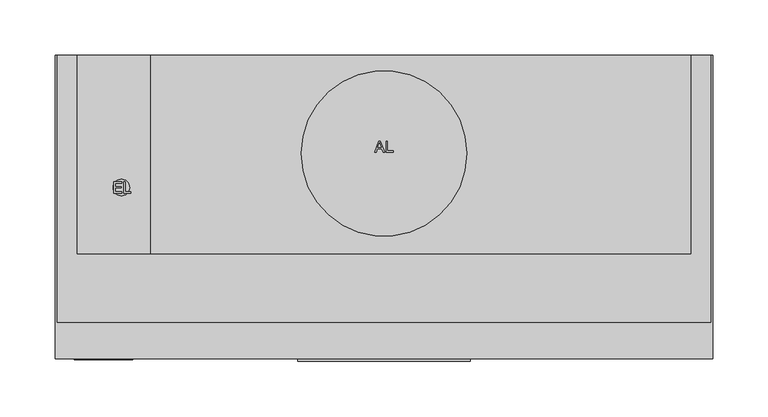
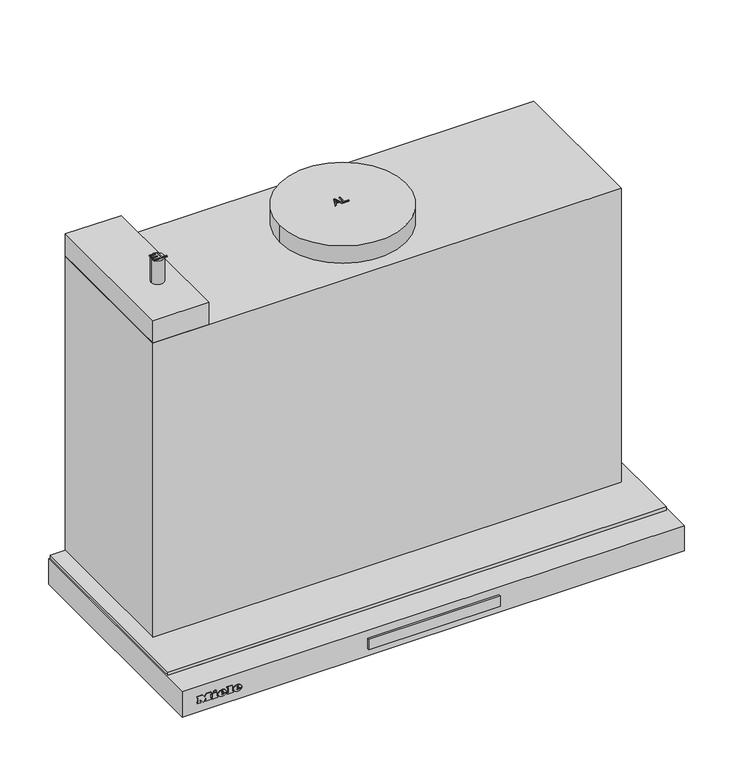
"""IFC4 building model written with IfcOpenShell, lengths in millimetres: proxy geometry, 12535050_CH_DAS4620_MASW : 28S4620M_CH_12535050_DAS4620_MASW."""

import ifcopenshell
import ifcopenshell.guid

model = None  # the IFC model being written
_history = None  # IfcOwnerHistory: only IFC2X3 demands one
_inside = {}  # id of a spatial element -> (the spatial element, [elements in it])
_under = {}  # id of a project, library or spatial element -> (it, [spatial elements below it])
_declared = {}  # id of a project -> (the project, [libraries it declares])
_typed = {}  # id of a type object -> (the type object, [elements of that type])
_made_of = {}  # id of a material, layer set ... -> (it, [elements and type objects made of it])


def new_model(schema):
    """Start an empty IFC model of exactly this schema.

    Asked for "IFC4X3", IfcOpenShell would pick the latest addendum, in which some entities
    have other attributes; the version numbers below select the first issue.
    IFC2X3 requires an IfcOwnerHistory on every rooted entity: one is made here for all.
    """
    global model, _history
    if schema == "IFC4X3":
        model = ifcopenshell.file(schema_version=(4, 3, 0, 0))
    else:
        model = ifcopenshell.file(schema=schema)
    _inside.clear()
    _under.clear()
    _declared.clear()
    _typed.clear()
    _made_of.clear()
    _history = None
    if model.schema == "IFC2X3":
        org = make("IfcOrganization", Name="unknown")
        user = make(
            "IfcPersonAndOrganization",
            ThePerson=make("IfcPerson", FamilyName="unknown"),
            TheOrganization=org,
        )
        app = make(
            "IfcApplication",
            ApplicationDeveloper=org,
            Version="unknown",
            ApplicationFullName="unknown",
            ApplicationIdentifier="unknown",
        )
        _history = make(
            "IfcOwnerHistory",
            OwningUser=user,
            OwningApplication=app,
            ChangeAction="ADDED",
            CreationDate=0,
        )
    return model


def make(cls, **values):
    """One entity of the class cls with the attributes given. An attribute that is None is left unset."""
    return model.create_entity(
        cls, **{name: value for name, value in values.items() if value is not None}
    )


def rooted(cls, **values):
    """An entity with a GlobalId (a new one), such as an element, a storey or a relation."""
    return make(cls, GlobalId=ifcopenshell.guid.new(), OwnerHistory=_history, **values)


def si_unit(unit_type, name, prefix=None):
    """IfcSIUnit, for example si_unit("LENGTHUNIT", "METRE", prefix="MILLI")."""
    return make("IfcSIUnit", UnitType=unit_type, Prefix=prefix, Name=name)


def assignment(units):
    """IfcUnitAssignment: the units of a project."""
    return None if units is None else make("IfcUnitAssignment", Units=units)


def point(xyz):
    """IfcCartesianPoint."""
    return None if xyz is None else make("IfcCartesianPoint", Coordinates=xyz)


def direction(xyz):
    """IfcDirection."""
    return None if xyz is None else make("IfcDirection", DirectionRatios=xyz)


def frame(location, z_axis=None, x_axis=None):
    """IfcAxis2Placement3D, a coordinate frame: its origin and axes. An axis left out is left unset."""
    return make(
        "IfcAxis2Placement3D",
        Location=point(location),
        Axis=direction(z_axis),
        RefDirection=direction(x_axis),
    )


def frame_2d(location, x_axis=None):
    """IfcAxis2Placement2D, a coordinate frame in the plane: its origin and x axis."""
    return make(
        "IfcAxis2Placement2D", Location=point(location), RefDirection=direction(x_axis)
    )


def origin():
    """The frame at (0, 0, 0) with its axes left unset."""
    return frame((0.0, 0.0, 0.0))


def origin_with_axes():
    """The frame at (0, 0, 0) with the z axis (0, 0, 1) and the x axis (1, 0, 0) written out."""
    return frame((0.0, 0.0, 0.0), z_axis=(0.0, 0.0, 1.0), x_axis=(1.0, 0.0, 0.0))


def place(relative_to, where):
    """IfcLocalPlacement: puts the frame where relative to a parent placement (None: the world)."""
    return make(
        "IfcLocalPlacement", PlacementRelTo=relative_to, RelativePlacement=where
    )


def context(
    kind, dimensions, precision=None, world=None, true_north=None, identifier=None
):
    """IfcGeometricRepresentationContext, for example the 3D "Model" context."""
    return make(
        "IfcGeometricRepresentationContext",
        ContextIdentifier=identifier,
        ContextType=kind,
        CoordinateSpaceDimension=dimensions,
        Precision=precision,
        WorldCoordinateSystem=world,
        TrueNorth=true_north,
    )


def project(units=None, contexts=None):
    """IfcProject with its units and contexts."""
    return rooted(
        "IfcProject",
        Name="project",
        RepresentationContexts=contexts,
        UnitsInContext=assignment(units),
    )


def spatial(cls, under=None, at=None, **own):
    """A site, building, storey or space (cls), placed at a placement, below another one or the project."""
    s = rooted(cls, ObjectPlacement=at, **own)
    if under is not None:
        _under.setdefault(under.id(), (under, []))[1].append(s)
    return s


def polyline(points):
    """IfcPolyline through the points."""
    return make("IfcPolyline", Points=[point(p) for p in points])


def circle_curve(where, radius):
    """IfcCircle in the frame where."""
    return make("IfcCircle", Position=where, Radius=radius)


def ellipse_curve(where, semi_axis1, semi_axis2):
    """IfcEllipse in the frame where."""
    return make(
        "IfcEllipse", Position=where, SemiAxis1=semi_axis1, SemiAxis2=semi_axis2
    )


def trimmed(basis, trim1, trim2, sense, master):
    """IfcTrimmedCurve: the piece of a basis curve between two trims."""
    return make(
        "IfcTrimmedCurve",
        BasisCurve=basis,
        Trim1=trim1,
        Trim2=trim2,
        SenseAgreement=sense,
        MasterRepresentation=master,
    )


def segment(curve, same_sense, transition):
    """IfcCompositeCurveSegment."""
    return make(
        "IfcCompositeCurveSegment",
        Transition=transition,
        SameSense=same_sense,
        ParentCurve=curve,
    )


def composite_curve(segments, self_intersect=None):
    """IfcCompositeCurve: segments joined end to end."""
    return make("IfcCompositeCurve", Segments=segments, SelfIntersect=self_intersect)


def outline(outer, holes=None, kind="AREA"):
    """IfcArbitraryClosedProfileDef: a profile drawn as a closed curve; with holes, ...WithVoids."""
    if holes is None:
        return make("IfcArbitraryClosedProfileDef", ProfileType=kind, OuterCurve=outer)
    return make(
        "IfcArbitraryProfileDefWithVoids",
        ProfileType=kind,
        OuterCurve=outer,
        InnerCurves=holes,
    )


def extrude(swept, where, along, depth):
    """IfcExtrudedAreaSolid: the profile swept, set in the frame where, extruded along a direction by depth."""
    return make(
        "IfcExtrudedAreaSolid",
        SweptArea=swept,
        Position=where,
        ExtrudedDirection=direction(along),
        Depth=depth,
    )


def faces_of(points, faces, orient=None, outer=None):
    """IfcFace entities. A face is a list of loops; a loop is a list of indices into points, from 0.

    orient and outer hold one flag for each loop. By default every Orientation is true, the
    first loop of a face is its IfcFaceOuterBound and the others are IfcFaceBound.
    """
    made = []
    for i, loops in enumerate(faces):
        bounds = []
        for j, loop in enumerate(loops):
            is_outer = j == 0 if outer is None else outer[i][j]
            bounds.append(
                make(
                    "IfcFaceOuterBound" if is_outer else "IfcFaceBound",
                    Bound=make("IfcPolyLoop", Polygon=[points[k] for k in loop]),
                    Orientation=True if orient is None else orient[i][j],
                )
            )
        made.append(make("IfcFace", Bounds=bounds))
    return made


def faceted_brep(points, faces, orient=None, outer=None, voids=None):
    """IfcFacetedBrep: a solid bounded by flat faces; with voids (closed shells), ...WithVoids."""
    shared = [point(p) for p in points]
    hull = make("IfcClosedShell", CfsFaces=faces_of(shared, faces, orient, outer))
    if voids is None:
        return make("IfcFacetedBrep", Outer=hull)
    return make(
        "IfcFacetedBrepWithVoids",
        Outer=hull,
        Voids=[
            make(cls, CfsFaces=faces_of(shared, fs, o, b)) for cls, fs, o, b in voids
        ],
    )


def shape(context_of_items, identifier, shape_type, items):
    """IfcShapeRepresentation: the items that make up one representation, for example the "Body"."""
    return make(
        "IfcShapeRepresentation",
        ContextOfItems=context_of_items,
        RepresentationIdentifier=identifier,
        RepresentationType=shape_type,
        Items=items,
    )


def source(mapping_origin, context_of_items, identifier, shape_type, items):
    """IfcRepresentationMap: a shape defined once, which mapped items show again and again."""
    return make(
        "IfcRepresentationMap",
        MappingOrigin=mapping_origin,
        MappedRepresentation=shape(context_of_items, identifier, shape_type, items),
    )


def transform(
    local_origin,
    x_axis=None,
    y_axis=None,
    z_axis=None,
    scale=None,
    scale2=None,
    scale3=None,
    uniform=True,
):
    """IfcCartesianTransformationOperator3D, or its non-uniform kind. x_axis, y_axis, z_axis: its Axis1, 2, 3."""
    if uniform:
        return make(
            "IfcCartesianTransformationOperator3D",
            Axis1=direction(x_axis),
            Axis2=direction(y_axis),
            LocalOrigin=point(local_origin),
            Scale=scale,
            Axis3=direction(z_axis),
        )
    return make(
        "IfcCartesianTransformationOperator3DnonUniform",
        Axis1=direction(x_axis),
        Axis2=direction(y_axis),
        LocalOrigin=point(local_origin),
        Scale=scale,
        Axis3=direction(z_axis),
        Scale2=scale2,
        Scale3=scale3,
    )


def mapped(mapping_source, mapping_target):
    """IfcMappedItem: shows the shape of a source again, moved by a transform."""
    return make(
        "IfcMappedItem", MappingSource=mapping_source, MappingTarget=mapping_target
    )


def made_of(thing, what):
    """Note that an element or type object is made of a material, layer set ...; save() writes the relation."""
    if what is not None:
        _made_of.setdefault(what.id(), (what, []))[1].append(thing)
    return thing


def element(
    cls,
    number,
    at=None,
    inside=None,
    cuts=None,
    type_object=None,
    material=None,
    context=None,
    identifier="Body",
    shape_type=None,
    held_by="IfcProductDefinitionShape",
    body=None,
    shapes=None,
    **own,
):
    """One element of the class cls, such as IfcWall. Its Tag is "e" and its number.

    at: its placement. inside: the storey or other place that contains it. cuts: it is an
    opening in that element (IfcRelVoidsElement). A single representation is given by context,
    identifier, shape_type and body (its items); several are given by shapes. held_by: the class
    of the entity that holds the representations. save() writes the other relations.
    """
    e = rooted(cls, Tag="e%d" % number, ObjectPlacement=at, **own)
    if body is not None:
        shapes = [shape(context, identifier, shape_type, body)]
    if shapes is not None:
        e.Representation = make(held_by, Representations=shapes)
    if inside is not None:
        _inside.setdefault(inside.id(), (inside, []))[1].append(e)
    if cuts is not None:
        rooted(
            "IfcRelVoidsElement", RelatingBuildingElement=cuts, RelatedOpeningElement=e
        )
    if type_object is not None:
        _typed.setdefault(type_object.id(), (type_object, []))[1].append(e)
    return made_of(e, material)


def aggregate(whole, parts):
    """IfcRelAggregates: a whole, such as a stair, and the parts it consists of."""
    return rooted("IfcRelAggregates", RelatingObject=whole, RelatedObjects=parts)


def save(model, path):
    """Write the relations noted so far, then the file.

    IfcRelAggregates (storeys below a building ...), IfcRelContainedInSpatialStructure (elements
    in a storey), IfcRelDefinesByType, IfcRelAssociatesMaterial and IfcRelDeclares: one each for
    every whole, place, type object, material and project.
    """
    for whole, parts in _under.values():
        aggregate(whole, parts)
    for where, things in _inside.values():
        rooted(
            "IfcRelContainedInSpatialStructure",
            RelatedElements=things,
            RelatingStructure=where,
        )
    for kind, things in _typed.values():
        rooted("IfcRelDefinesByType", RelatedObjects=things, RelatingType=kind)
    for what, things in _made_of.values():
        rooted("IfcRelAssociatesMaterial", RelatedObjects=things, RelatingMaterial=what)
    for by, libraries in _declared.values():
        rooted("IfcRelDeclares", RelatingContext=by, RelatedDefinitions=libraries)
    model.write(path)


def plane_surface(at):
    """IfcPlane: the flat surface through the origin of the frame at, square to its z axis."""
    return make("IfcPlane", Position=at)


def cylinder_surface(at, radius):
    """IfcCylindricalSurface: all points at the distance radius from the z axis of the frame at."""
    return make("IfcCylindricalSurface", Position=at, Radius=radius)


def revolved_surface(curve, axis_point, axis_direction):
    """IfcSurfaceOfRevolution: the curve turned about the line through axis_point along axis_direction."""
    return make(
        "IfcSurfaceOfRevolution",
        SweptCurve=make("IfcArbitraryOpenProfileDef", ProfileType="CURVE", Curve=curve),
        AxisPosition=make("IfcAxis1Placement", Location=point(axis_point), Axis=direction(axis_direction)),
    )


def extruded_surface(curve, direction_of_extrusion, depth):
    """IfcSurfaceOfLinearExtrusion: the curve pushed along a direction by depth."""
    return make(
        "IfcSurfaceOfLinearExtrusion",
        SweptCurve=make("IfcArbitraryOpenProfileDef", ProfileType="CURVE", Curve=curve),
        ExtrudedDirection=direction(direction_of_extrusion),
        Depth=depth,
    )


def advanced_brep(points, edges, surfaces, faces):
    """IfcAdvancedBrep: a solid bounded by faces that lie on surfaces and meet in shared edges.

    An edge is (start, end): straight between two places in points (the first is 0);
    or (start, end, curve); or (start, end, curve, False) where it runs against its curve.
    A face is (place in surfaces, loops), or (place, loops, False) where it looks against
    its surface's normal. A loop lists edges by number (the first is 1), with a minus sign
    where the edge is run from its end to its start. The first loop is the outer one.
    """
    corners = [point(p) for p in points]
    vertices = [make("IfcVertexPoint", VertexGeometry=c) for c in corners]
    made = []
    for start, end, *more in edges:
        made.append(
            make(
                "IfcEdgeCurve",
                EdgeStart=vertices[start],
                EdgeEnd=vertices[end],
                EdgeGeometry=more[0] if more else make("IfcPolyline", Points=[corners[start], corners[end]]),
                SameSense=more[1] if len(more) > 1 else True,
            )
        )
    hull = []
    for where, loops, *sense in faces:
        bounds = []
        for j, loop in enumerate(loops):
            ring = [make("IfcOrientedEdge", EdgeElement=made[abs(k) - 1], Orientation=k > 0) for k in loop]
            bounds.append(
                make(
                    "IfcFaceOuterBound" if j == 0 else "IfcFaceBound",
                    Bound=make("IfcEdgeLoop", EdgeList=ring),
                    Orientation=True,
                )
            )
        hull.append(make("IfcAdvancedFace", Bounds=bounds, FaceSurface=surfaces[where], SameSense=sense[0] if sense else True))
    return make("IfcAdvancedBrep", Outer=make("IfcClosedShell", CfsFaces=hull))


def specialty_equipment_1dbf12ea(model_context):
    return source(origin(), model_context, "Body", "SolidModel", [
        extrude(outline(polyline([(78.0, -275.0), (78.0, -277.3978707), (-78.0, -277.3978707), (-78.0, -275.0), (78.0, -275.0)])), frame((0.0, 0.0, -23.0389651), z_axis=(0.0, 0.0, 1.0), x_axis=(1.0, 0.0, 0.0)), (0.0, 0.0, 1.0), 13.3389155),
        advanced_brep(
        [(-233.4590019, -276.0, -18.7681017), (-233.4590019, -276.0, -17.8894017), (-227.6387019, -276.0, -17.8894017), (-237.7655019, -276.0, -17.8894017), (-235.3730019, -276.0, -20.8300017), (-227.7866019, -276.0, -18.7681017), (-230.4140019, -276.0, -18.7681017), (-232.4846019, -276.0, -19.7425017), (-233.4590019, -276.0, -16.7758017), (-233.4590019, -276.0, -15.8275017), (-231.9713019, -276.0, -15.8275017), (-231.9713019, -276.0, -16.7758017), (-233.4590019, -275.0, -18.7681017), (-232.4846019, -275.0, -19.7425017), (-230.4140019, -275.0, -18.7681017), (-227.7866019, -275.0, -18.7681017), (-235.3730019, -275.0, -20.8300017), (-237.7655019, -275.0, -17.8894017), (-227.6387019, -275.0, -17.8894017), (-233.4590019, -275.0, -17.8894017), (-233.4590019, -275.0, -16.7758017), (-231.9713019, -275.0, -16.7758017), (-231.9713019, -275.0, -15.8275017), (-233.4590019, -275.0, -15.8275017)],
        [
            (0, 1),
            (1, 2),
            (2, 3, ellipse_curve(frame((-232.7021019, -276.0, -17.8894017), z_axis=(0.0, -1.0, 0.0), x_axis=(-1.0, 0.0, 0.0)), 5.0634, 4.1847)),
            (3, 4, circle_curve(frame((-234.3985544, -276.0, -17.5936017), z_axis=(0.0, -1.0, 0.0), x_axis=(0.0, 0.0, -1.0)), 3.3799161)),
            (4, 5, circle_curve(frame((-232.8034638, -276.0, -15.2968017), z_axis=(0.0, -1.0, 0.0), x_axis=(0.0, 0.0, -1.0)), 6.1007236)),
            (5, 6),
            (6, 7, circle_curve(frame((-232.0593254, -276.0, -17.9590017), z_axis=(0.0, 1.0, 0.0), x_axis=(0.0, 0.0, -1.0)), 1.8335027)),
            (7, 0, circle_curve(frame((-232.4846019, -276.0, -18.7681017), z_axis=(0.0, 1.0, 0.0), x_axis=(0.0, 0.0, -1.0)), 0.9744)),
            (8, 9),
            (9, 10, circle_curve(frame((-232.7151519, -276.0, -15.8275017), z_axis=(0.0, 1.0, 0.0), x_axis=(0.0, 0.0, -1.0)), 0.74385)),
            (10, 11),
            (11, 8),
            (12, 13, circle_curve(frame((-232.4846019, -275.0, -18.7681017), z_axis=(0.0, -1.0, 0.0), x_axis=(0.0, 0.0, -1.0)), 0.9744)),
            (13, 14, circle_curve(frame((-232.0593254, -275.0, -17.9590017), z_axis=(0.0, -1.0, 0.0), x_axis=(0.0, 0.0, -1.0)), 1.8335027)),
            (14, 15),
            (15, 16, circle_curve(frame((-232.8034638, -275.0, -15.2968017), z_axis=(0.0, 1.0, 0.0), x_axis=(0.0, 0.0, -1.0)), 6.1007236)),
            (16, 17, circle_curve(frame((-234.3985544, -275.0, -17.5936017), z_axis=(0.0, 1.0, 0.0), x_axis=(0.0, 0.0, -1.0)), 3.3799161)),
            (17, 18, ellipse_curve(frame((-232.7021019, -275.0, -17.8894017), z_axis=(0.0, 1.0, 0.0), x_axis=(-1.0, 0.0, 0.0)), 5.0634, 4.1847)),
            (18, 19),
            (19, 12),
            (20, 21),
            (21, 22),
            (22, 23, circle_curve(frame((-232.7151519, -275.0, -15.8275017), z_axis=(0.0, -1.0, 0.0), x_axis=(0.0, 0.0, -1.0)), 0.74385)),
            (23, 20),
            (0, 12),
            (19, 1),
            (18, 2),
            (5, 15),
            (14, 6),
            (17, 3),
            (13, 7),
            (16, 4),
            (8, 20),
            (23, 9),
            (22, 10),
            (21, 11),
        ],
        [
            plane_surface(frame((-233.4590019, -276.0, -17.8894017), z_axis=(0.0, -1.0, 0.0), x_axis=(0.0, 0.0, 1.0))),
            plane_surface(frame((-233.4590019, -275.0, -17.8894017), z_axis=(0.0, 1.0, 0.0), x_axis=(0.0, 0.0, -1.0))),
            plane_surface(frame((-233.4590019, -276.0, -18.7681017), z_axis=(1.0, 0.0, 0.0), x_axis=(0.0, 1.0, 0.0))),
            plane_surface(frame((-233.4590019, -276.0, -17.8894017), z_axis=(0.0, 0.0, -1.0), x_axis=(0.0, 1.0, 0.0))),
            plane_surface(frame((-227.7866019, -276.0, -18.7681017), z_axis=(0.0, 0.0, 1.0), x_axis=(0.0, 1.0, 0.0))),
            extruded_surface(trimmed(ellipse_curve(frame((-232.7021019, -274.0, -17.8894017), z_axis=(0.0, -1.0, 0.0), x_axis=(-1.0, 0.0, 0.0)), 5.0634, 4.1847), [point((-227.6387019, -274.0, -17.8894017))], [point((-237.7655019, -274.0, -17.8894017))], True, "CARTESIAN"), (0.0, -1.0, 0.0), 1.0),
            revolved_surface(polyline([(-232.0593254, -275.0, -19.792504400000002), (-232.0593254, -276.0, -19.792504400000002)]), (-232.0593254, -275.0, -17.9590017), (0.0, 1.0, 0.0)),
            revolved_surface(polyline([(-232.4846019, -275.0, -19.7425017), (-232.4846019, -276.0, -19.7425017)]), (-232.4846019, -275.0, -18.7681017), (0.0, 1.0, 0.0)),
            cylinder_surface(frame((-234.3985544, -275.0, -17.5936017), z_axis=(0.0, -1.0, 0.0), x_axis=(0.0, 0.0, -1.0)), 3.3799161),
            cylinder_surface(frame((-232.8034638, -275.0, -15.2968017), z_axis=(0.0, -1.0, 0.0), x_axis=(0.0, 0.0, -1.0)), 6.1007236),
            plane_surface(frame((-233.4590019, -276.0, -16.7758017), z_axis=(1.0, 0.0, 0.0), x_axis=(0.0, 1.0, 0.0))),
            revolved_surface(polyline([(-232.7151519, -275.0, -16.571351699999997), (-232.7151519, -276.0, -16.571351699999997)]), (-232.7151519, -275.0, -15.8275017), (0.0, 1.0, 0.0)),
            plane_surface(frame((-231.9713019, -276.0, -15.8275017), z_axis=(-1.0, 0.0, 0.0), x_axis=(0.0, 1.0, 0.0))),
            plane_surface(frame((-231.9713019, -276.0, -16.7758017), z_axis=(0.0, 0.0, 1.0), x_axis=(0.0, 1.0, 0.0))),
        ],
        [
            (0, [[1, 2, 3, 4, 5, 6, 7, 8], [9, 10, 11, 12]]),
            (1, [[13, 14, 15, 16, 17, 18, 19, 20], [21, 22, 23, 24]]),
            (2, [[-1, 25, -20, 26]]),
            (3, [[-2, -26, -19, 27]]),
            (4, [[-6, 28, -15, 29]]),
            (5, [[-3, -27, -18, 30]]),
            (6, [[-7, -29, -14, 31]]),
            (7, [[-8, -31, -13, -25]]),
            (8, [[-4, -30, -17, 32]]),
            (9, [[-5, -32, -16, -28]]),
            (10, [[-9, 33, -24, 34]]),
            (11, [[-10, -34, -23, 35]]),
            (12, [[-11, -35, -22, 36]]),
            (13, [[-12, -36, -21, -33]]),
        ],
    ),
        advanced_brep(
        [(-251.6159019, -276.0, -18.7681017), (-251.6159019, -276.0, -17.8894017), (-245.7956019, -276.0, -17.8894017), (-255.9224019, -276.0, -17.8894017), (-253.5299019, -276.0, -20.8300017), (-245.9435019, -276.0, -18.7681017), (-248.5709019, -276.0, -18.7681017), (-250.6415019, -276.0, -19.7425017), (-251.6159019, -276.0, -16.7758017), (-251.6159019, -276.0, -15.8275017), (-250.1282019, -276.0, -15.8275017), (-250.1282019, -276.0, -16.7758017), (-251.6159019, -275.0, -18.7681017), (-250.6415019, -275.0, -19.7425017), (-248.5709019, -275.0, -18.7681017), (-245.9435019, -275.0, -18.7681017), (-253.5299019, -275.0, -20.8300017), (-255.9224019, -275.0, -17.8894017), (-245.7956019, -275.0, -17.8894017), (-251.6159019, -275.0, -17.8894017), (-251.6159019, -275.0, -16.7758017), (-250.1282019, -275.0, -16.7758017), (-250.1282019, -275.0, -15.8275017), (-251.6159019, -275.0, -15.8275017)],
        [
            (0, 1),
            (1, 2),
            (2, 3, ellipse_curve(frame((-250.8590019, -276.0, -17.8894017), z_axis=(0.0, -1.0, 0.0), x_axis=(-1.0, 0.0, 0.0)), 5.0634, 4.1847)),
            (3, 4, circle_curve(frame((-252.5554544, -276.0, -17.5936017), z_axis=(0.0, -1.0, 0.0), x_axis=(0.0, 0.0, -1.0)), 3.3799161)),
            (4, 5, circle_curve(frame((-250.9603638, -276.0, -15.2968017), z_axis=(0.0, -1.0, 0.0), x_axis=(0.0, 0.0, -1.0)), 6.1007236)),
            (5, 6),
            (6, 7, circle_curve(frame((-250.2162254, -276.0, -17.9590017), z_axis=(0.0, 1.0, 0.0), x_axis=(0.0, 0.0, -1.0)), 1.8335027)),
            (7, 0, circle_curve(frame((-250.6415019, -276.0, -18.7681017), z_axis=(0.0, 1.0, 0.0), x_axis=(0.0, 0.0, -1.0)), 0.9744)),
            (8, 9),
            (9, 10, circle_curve(frame((-250.8720519, -276.0, -15.8275017), z_axis=(0.0, 1.0, 0.0), x_axis=(0.0, 0.0, -1.0)), 0.74385)),
            (10, 11),
            (11, 8),
            (12, 13, circle_curve(frame((-250.6415019, -275.0, -18.7681017), z_axis=(0.0, -1.0, 0.0), x_axis=(0.0, 0.0, -1.0)), 0.9744)),
            (13, 14, circle_curve(frame((-250.2162254, -275.0, -17.9590017), z_axis=(0.0, -1.0, 0.0), x_axis=(0.0, 0.0, -1.0)), 1.8335027)),
            (14, 15),
            (15, 16, circle_curve(frame((-250.9603638, -275.0, -15.2968017), z_axis=(0.0, 1.0, 0.0), x_axis=(0.0, 0.0, -1.0)), 6.1007236)),
            (16, 17, circle_curve(frame((-252.5554544, -275.0, -17.5936017), z_axis=(0.0, 1.0, 0.0), x_axis=(0.0, 0.0, -1.0)), 3.3799161)),
            (17, 18, ellipse_curve(frame((-250.8590019, -275.0, -17.8894017), z_axis=(0.0, 1.0, 0.0), x_axis=(-1.0, 0.0, 0.0)), 5.0634, 4.1847)),
            (18, 19),
            (19, 12),
            (20, 21),
            (21, 22),
            (22, 23, circle_curve(frame((-250.8720519, -275.0, -15.8275017), z_axis=(0.0, -1.0, 0.0), x_axis=(0.0, 0.0, -1.0)), 0.74385)),
            (23, 20),
            (0, 12),
            (19, 1),
            (18, 2),
            (5, 15),
            (14, 6),
            (17, 3),
            (13, 7),
            (16, 4),
            (8, 20),
            (23, 9),
            (22, 10),
            (21, 11),
        ],
        [
            plane_surface(frame((-251.6159019, -276.0, -17.8894017), z_axis=(0.0, -1.0, 0.0), x_axis=(0.0, 0.0, 1.0))),
            plane_surface(frame((-251.6159019, -275.0, -17.8894017), z_axis=(0.0, 1.0, 0.0), x_axis=(0.0, 0.0, -1.0))),
            plane_surface(frame((-251.6159019, -276.0, -18.7681017), z_axis=(1.0, 0.0, 0.0), x_axis=(0.0, 1.0, 0.0))),
            plane_surface(frame((-251.6159019, -276.0, -17.8894017), z_axis=(0.0, 0.0, -1.0), x_axis=(0.0, 1.0, 0.0))),
            plane_surface(frame((-245.9435019, -276.0, -18.7681017), z_axis=(0.0, 0.0, 1.0), x_axis=(0.0, 1.0, 0.0))),
            extruded_surface(trimmed(ellipse_curve(frame((-250.8590019, -274.0, -17.8894017), z_axis=(0.0, -1.0, 0.0), x_axis=(-1.0, 0.0, 0.0)), 5.0634, 4.1847), [point((-245.7956019, -274.0, -17.8894017))], [point((-255.9224019, -274.0, -17.8894017))], True, "CARTESIAN"), (0.0, -1.0, 0.0), 1.0),
            revolved_surface(polyline([(-250.2162254, -275.0, -19.792504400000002), (-250.2162254, -276.0, -19.792504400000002)]), (-250.2162254, -275.0, -17.9590017), (0.0, 1.0, 0.0)),
            revolved_surface(polyline([(-250.6415019, -275.0, -19.7425017), (-250.6415019, -276.0, -19.7425017)]), (-250.6415019, -275.0, -18.7681017), (0.0, 1.0, 0.0)),
            cylinder_surface(frame((-252.5554544, -275.0, -17.5936017), z_axis=(0.0, -1.0, 0.0), x_axis=(0.0, 0.0, -1.0)), 3.3799161),
            cylinder_surface(frame((-250.9603638, -275.0, -15.2968017), z_axis=(0.0, -1.0, 0.0), x_axis=(0.0, 0.0, -1.0)), 6.1007236),
            plane_surface(frame((-251.6159019, -276.0, -16.7758017), z_axis=(1.0, 0.0, 0.0), x_axis=(0.0, 1.0, 0.0))),
            revolved_surface(polyline([(-250.8720519, -275.0, -16.571351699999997), (-250.8720519, -276.0, -16.571351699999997)]), (-250.8720519, -275.0, -15.8275017), (0.0, 1.0, 0.0)),
            plane_surface(frame((-250.1282019, -276.0, -15.8275017), z_axis=(-1.0, 0.0, 0.0), x_axis=(0.0, 1.0, 0.0))),
            plane_surface(frame((-250.1282019, -276.0, -16.7758017), z_axis=(0.0, 0.0, 1.0), x_axis=(0.0, 1.0, 0.0))),
        ],
        [
            (0, [[1, 2, 3, 4, 5, 6, 7, 8], [9, 10, 11, 12]]),
            (1, [[13, 14, 15, 16, 17, 18, 19, 20], [21, 22, 23, 24]]),
            (2, [[-1, 25, -20, 26]]),
            (3, [[-2, -26, -19, 27]]),
            (4, [[-6, 28, -15, 29]]),
            (5, [[-3, -27, -18, 30]]),
            (6, [[-7, -29, -14, 31]]),
            (7, [[-8, -31, -13, -25]]),
            (8, [[-4, -30, -17, 32]]),
            (9, [[-5, -32, -16, -28]]),
            (10, [[-9, 33, -24, 34]]),
            (11, [[-10, -34, -23, 35]]),
            (12, [[-11, -35, -22, 36]]),
            (13, [[-12, -36, -21, -33]]),
        ],
    ),
        extrude(outline(polyline([(-12.6433017, -261.1250019), (-14.0527017, -260.4638019), (-12.6781017, -257.5145019), (-11.2687017, -258.1670019), (-12.6433017, -261.1250019)])), frame((0.0, -276.0, 0.0), z_axis=(0.0, 1.0, 0.0), x_axis=(0.0, 0.0, 1.0)), (0.0, 0.0, 1.0), 1.0),
        extrude(outline(polyline([(-14.2441017, -263.2739019), (-15.8014017, -263.2739019), (-15.8014017, -262.2386019), (-19.3684017, -262.2386019), (-19.3684017, -263.2739019), (-20.8300017, -263.2739019), (-20.8300017, -256.4096019), (-19.3684017, -256.4096019), (-19.3684017, -257.4188019), (-14.2441017, -257.4188019), (-14.2441017, -263.2739019)])), frame((0.0, -276.0, 0.0), z_axis=(0.0, 1.0, 0.0), x_axis=(0.0, 0.0, 1.0)), (0.0, 0.0, 1.0), 1.0),
        extrude(outline(polyline([(-13.5481017, -245.3084019), (-13.5481017, -244.2644019), (-19.3684017, -244.2644019), (-19.3684017, -245.3084019), (-20.8300017, -245.3084019), (-20.8300017, -238.2527019), (-19.3684017, -238.2527019), (-19.3684017, -239.3228019), (-12.1300017, -239.3228019), (-12.1300017, -245.3084019), (-13.5481017, -245.3084019)])), frame((0.0, -276.0, 0.0), z_axis=(0.0, 1.0, 0.0), x_axis=(0.0, 0.0, 1.0)), (0.0, 0.0, 1.0), 1.0),
        extrude(outline(polyline([(-13.5481017, -280.6130019), (-13.5481017, -279.5603019), (-19.3684017, -279.5603019), (-19.3684017, -280.6130019), (-20.8300017, -280.6130019), (-20.8300017, -276.7850019), (-19.3684017, -276.7850019), (-19.3684017, -277.8290019), (-15.6719769, -277.8290019), (-20.8300017, -273.9401019), (-15.5772794, -270.0338019), (-19.3684017, -270.0338019), (-19.3684017, -271.1039019), (-20.8300017, -271.1039019), (-20.8300017, -264.1613019), (-19.3684017, -264.1613019), (-19.3684017, -265.2662019), (-13.5481017, -265.2662019), (-13.5481017, -264.1613019), (-12.1300017, -264.1613019), (-12.1300017, -269.4596019), (-15.3925017, -272.0000019), (-12.1300017, -274.5491019), (-12.1300017, -280.6130019), (-13.5481017, -280.6130019)])), frame((0.0, -276.0, 0.0), z_axis=(0.0, 1.0, 0.0), x_axis=(0.0, 0.0, 1.0)), (0.0, 0.0, 1.0), 1.0),
        extrude(outline(polyline([(278.0, -180.0), (-278.0, -180.0), (-278.0, 0.0), (278.0, 0.0), (278.0, -180.0)])), frame((0.0, 0.0, 4.0), z_axis=(0.0, 0.0, 1.0), x_axis=(1.0, 0.0, 0.0)), (0.0, 0.0, 1.0), 369.0),
        extrude(outline(composite_curve([segment(trimmed(circle_curve(frame_2d((0.0, -89.0)), 75.0), [point((-75.0, -89.0))], [point((75.0, -89.0))], False, "CARTESIAN"), True, "CONTINUOUS"), segment(trimmed(circle_curve(frame_2d((0.0, -89.0)), 75.0), [point((75.0, -89.0))], [point((-75.0, -89.0))], False, "CARTESIAN"), True, "CONTINUOUS")], self_intersect=False)), frame((0.0, 0.0, 373.0), z_axis=(0.0, 0.0, 1.0), x_axis=(1.0, 0.0, 0.0)), (0.0, 0.0, 1.0), 22.0),
        extrude(outline(polyline([(-278.0, -180.0), (-278.0, 0.0), (-212.0, 0.0), (-212.0, -180.0), (-278.0, -180.0)])), frame((0.0, 0.0, 373.0), z_axis=(0.0, 0.0, 1.0), x_axis=(1.0, 0.0, 0.0)), (0.0, 0.0, 1.0), 28.0),
        extrude(outline(polyline([(-8.5446725, -87.975609), (-4.5347587, -77.929978), (-3.4654484, -77.929978), (0.5420128, -87.975609), (-0.7848149, -87.975609), (-1.9326067, -84.8363493), (-6.0725055, -84.8363493), (-7.2202973, -87.975609), (-8.5446725, -87.975609)]), holes=[polyline([(-5.6114267, -83.5806455), (-2.391233, -83.5806455), (-3.2986752, -81.110931), (-4.0025561, -79.1856819), (-4.6279555, -80.8951069), (-5.6114267, -83.5806455)])]), frame((0.0, 0.0, 395.0), z_axis=(0.0, 0.0, 1.0), x_axis=(1.0, 0.0, 0.0)), (0.0, 0.0, 1.0), 1.0),
        extrude(outline(polyline([(1.8835558, -87.975609), (1.8835558, -77.929978), (3.1392597, -77.929978), (3.1392597, -86.7199052), (8.1620752, -86.7199052), (8.1620752, -87.975609), (1.8835558, -87.975609)])), frame((0.0, 0.0, 395.0), z_axis=(0.0, 0.0, 1.0), x_axis=(1.0, 0.0, 0.0)), (0.0, 0.0, 1.0), 1.0),
        extrude(outline(polyline([(296.0, 0.0), (296.0, -242.0), (-296.0, -242.0), (-296.0, 0.0), (296.0, 0.0)])), origin_with_axes(), (0.0, 0.0, 1.0), 4.0),
        extrude(outline(polyline([(120.0, -19.25), (120.0, -31.75), (-120.0, -31.75), (-120.0, -19.25), (120.0, -19.25)])), frame((0.0, 0.0, -23.0), z_axis=(0.0, 0.0, 1.0), x_axis=(1.0, 0.0, 0.0)), (0.0, 0.0, 1.0), 1.785426),
        extrude(outline(polyline([(181.0813184, -268.0), (181.0813184, -246.0), (249.0, -246.0), (249.0, -268.0), (181.0813184, -268.0)])), frame((0.0, 0.0, -33.3019181), z_axis=(0.0, 0.0, 1.0), x_axis=(1.0, 0.0, 0.0)), (0.0, 0.0, 1.0), 1.3019181),
        extrude(outline(polyline([(-249.0, -268.0), (-249.0, -246.0), (-181.0, -246.0), (-181.0, -268.0), (-249.0, -268.0)])), frame((0.0, 0.0, -33.3019181), z_axis=(0.0, 0.0, 1.0), x_axis=(1.0, 0.0, 0.0)), (0.0, 0.0, 1.0), 1.3019181),
        extrude(outline(composite_curve([segment(trimmed(circle_curve(frame_2d((-238.0, -120.0)), 7.5), [point((-230.5, -120.0))], [point((-245.5, -120.0))], False, "CARTESIAN"), True, "CONTINUOUS"), segment(trimmed(circle_curve(frame_2d((-238.0, -120.0)), 7.5), [point((-245.5, -120.0))], [point((-230.5, -120.0))], False, "CARTESIAN"), True, "CONTINUOUS")], self_intersect=False)), frame((0.0, 0.0, 401.0), z_axis=(0.0, 0.0, 1.0), x_axis=(1.0, 0.0, 0.0)), (0.0, 0.0, 1.0), 30.0),
        extrude(outline(polyline([(-235.640443, -124.9184735), (-235.640443, -114.8728425), (-234.3847391, -114.8728425), (-234.3847391, -123.6627696), (-229.3619236, -123.6627696), (-229.3619236, -124.9184735), (-235.640443, -124.9184735)])), frame((0.0, 0.0, 431.0), z_axis=(0.0, 0.0, 1.0), x_axis=(1.0, 0.0, 0.0)), (0.0, 0.0, 1.0), 1.0),
        extrude(outline(polyline([(-244.9012591, -124.9184735), (-244.9012591, -114.8728425), (-237.6809618, -114.8728425), (-237.6809618, -116.1285464), (-243.6455552, -116.1285464), (-243.6455552, -119.1108431), (-237.9948878, -119.1108431), (-237.9948878, -120.366547), (-243.6455552, -120.366547), (-243.6455552, -123.6627696), (-237.5239988, -123.6627696), (-237.5239988, -124.9184735), (-244.9012591, -124.9184735)])), frame((0.0, 0.0, 431.0), z_axis=(0.0, 0.0, 1.0), x_axis=(1.0, 0.0, 0.0)), (0.0, 0.0, 1.0), 1.0),
        extrude(outline(polyline([(-298.0, 0.0), (-263.0, 0.0), (-263.0, -242.0), (263.0, -242.0), (263.0, 0.0), (298.0, 0.0), (298.0, -275.0), (-298.0, -275.0), (-298.0, 0.0)])), frame((0.0, 0.0, -32.0), z_axis=(0.0, 0.0, 1.0), x_axis=(1.0, 0.0, 0.0)), (0.0, 0.0, 1.0), 32.0),
        faceted_brep([(-126.0, -39.0, -24.0), (-126.0, -39.0, 0.0), (126.0, -39.0, 0.0), (126.0, -39.0, -24.0), (-126.0, -12.0, -24.0), (-126.0, -12.0, 0.0), (126.0, -12.0, -24.0), (126.0, -12.0, 0.0), (-263.0, -242.0, 0.0), (-263.0, 0.0, 0.0), (-263.0, 0.0, -24.0), (-263.0, -52.0, -24.0), (-263.0, -52.0, -25.0), (-263.0, -242.0, -25.0), (263.0, -52.0, -25.0), (263.0, -242.0, -25.0), (263.0, -52.0, -24.0), (263.0, 0.0, -24.0), (263.0, 0.0, 0.0), (263.0, -242.0, 0.0)], [[[0, 1, 2, 3]], [[4, 5, 1, 0]], [[6, 7, 5, 4]], [[8, 9, 10, 11, 12, 13]], [[13, 12, 14, 15]], [[16, 11, 10, 17], [6, 4, 0, 3]], [[11, 16, 14, 12]], [[18, 9, 8, 19], [5, 7, 2, 1]], [[9, 18, 17, 10]], [[19, 8, 13, 15]], [[18, 19, 15, 14, 16, 17]], [[7, 6, 3, 2]]]),
        extrude(outline(polyline([(126.0, -12.0), (126.0, -39.0), (-126.0, -39.0), (-126.0, -12.0), (126.0, -12.0)]), holes=[polyline([(120.0, -19.25), (-120.0, -19.25), (-120.0, -31.75), (120.0, -31.75), (120.0, -19.25)])]), frame((0.0, 0.0, -21.214574), z_axis=(0.0, 0.0, 1.0), x_axis=(1.0, 0.0, 0.0)), (0.0, 0.0, 1.0), 21.214574),
    ])


if __name__ == "__main__":
    model = new_model("IFC4")
    model_context = context("Model", 3, world=origin())
    ifc_project = project(units=[si_unit("LENGTHUNIT", "METRE", prefix="MILLI")], contexts=[model_context])
    site = spatial("IfcSite", under=ifc_project)
    building = spatial("IfcBuilding", under=site)
    placement = place(None, origin())
    specialty_equipment_shape = specialty_equipment_1dbf12ea(model_context)
    element("IfcBuildingElementProxy", 1, Name="12535050_CH_DAS4620_MASW : 28S4620M_CH_12535050_DAS4620_MASW", ObjectType="12535050_CH_DAS4620_MASW : 28S4620M_CH_12535050_DAS4620_MASW", at=placement, inside=building, context=model_context, shape_type="MappedRepresentation", body=[
        mapped(specialty_equipment_shape, transform((0.0, 0.0, 0.0), x_axis=(1.0, 0.0, 0.0), y_axis=(0.0, 1.0, 0.0), z_axis=(0.0, 0.0, 1.0))),
    ])
    save(model, "model.ifc")
